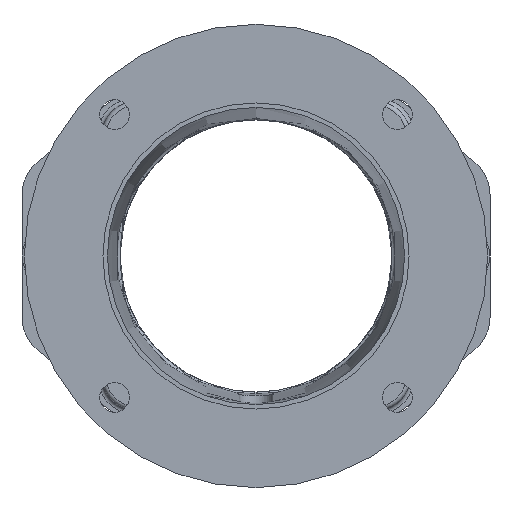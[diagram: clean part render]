
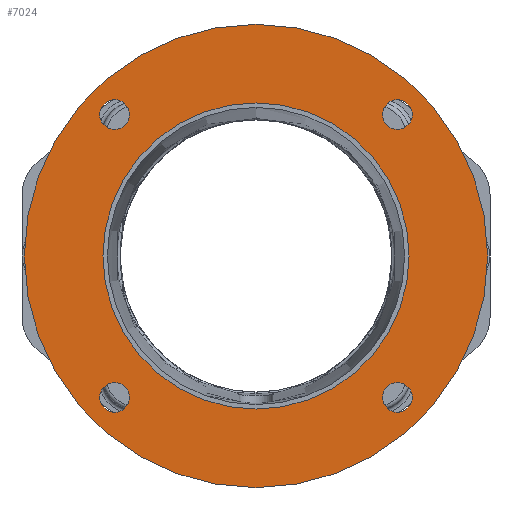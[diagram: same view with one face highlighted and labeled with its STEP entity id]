
A CAD part, front view. The second image highlights one B-rep face of the part: STEP entity #7024.
In plain terms, the highlighted planar face has unit normal (0, -1, 0).
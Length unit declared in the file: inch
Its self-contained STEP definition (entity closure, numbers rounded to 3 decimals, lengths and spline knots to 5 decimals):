
#1470 = DIRECTION ( 'NONE',  ( 0., -1., 0. ) ) ;
#1492 = CIRCLE ( 'NONE', #1498, 0.21875 ) ;
#1493 = DIRECTION ( 'NONE',  ( 0., 0., -1. ) ) ;
#1494 = CARTESIAN_POINT ( 'NONE',  ( 2.07889, 0., -1.86014 ) ) ;
#1497 = CARTESIAN_POINT ( 'NONE',  ( 2.07889, 0., -2.07889 ) ) ;
#1498 = AXIS2_PLACEMENT_3D ( 'NONE', #1497, #1470, #1493 ) ;
#1509 = CARTESIAN_POINT ( 'NONE',  ( 2.07889, 0., -2.29764 ) ) ;
#4248 = CARTESIAN_POINT ( 'NONE',  ( 0., 0., 3.405 ) ) ;
#4250 = CARTESIAN_POINT ( 'NONE',  ( 2.07889, 0., 1.86014 ) ) ;
#4251 = DIRECTION ( 'NONE',  ( 0., 0., -1. ) ) ;
#4252 = DIRECTION ( 'NONE',  ( 0., -1., 0. ) ) ;
#4253 = CARTESIAN_POINT ( 'NONE',  ( 2.07889, 0., 2.07889 ) ) ;
#4259 = AXIS2_PLACEMENT_3D ( 'NONE', #4253, #4252, #4251 ) ;
#4260 = CIRCLE ( 'NONE', #4259, 0.21875 ) ;
#4261 = CARTESIAN_POINT ( 'NONE',  ( 2.07889, 0., 2.29764 ) ) ;
#4334 = CARTESIAN_POINT ( 'NONE',  ( -2.07889, 0., -2.07889 ) ) ;
#4337 = DIRECTION ( 'NONE',  ( 0., 0., -1. ) ) ;
#4338 = DIRECTION ( 'NONE',  ( 0., -1., 0. ) ) ;
#4339 = AXIS2_PLACEMENT_3D ( 'NONE', #4334, #4338, #4337 ) ;
#4340 = CIRCLE ( 'NONE', #4339, 0.21875 ) ;
#4350 = CIRCLE ( 'NONE', #4380, 0.21875 ) ;
#4351 = CARTESIAN_POINT ( 'NONE',  ( -2.07889, 0., 1.86014 ) ) ;
#4359 = CARTESIAN_POINT ( 'NONE',  ( -2.07889, 0., 2.29764 ) ) ;
#4360 = CARTESIAN_POINT ( 'NONE',  ( -2.07889, 0., -2.29764 ) ) ;
#4377 = DIRECTION ( 'NONE',  ( 0., 0., -1. ) ) ;
#4378 = DIRECTION ( 'NONE',  ( 0., -1., 0. ) ) ;
#4379 = CARTESIAN_POINT ( 'NONE',  ( -2.07889, 0., 2.07889 ) ) ;
#4380 = AXIS2_PLACEMENT_3D ( 'NONE', #4379, #4378, #4377 ) ;
#4465 = CARTESIAN_POINT ( 'NONE',  ( 0., 0., 2.2505 ) ) ;
#4474 = CARTESIAN_POINT ( 'NONE',  ( 0., 0., 0. ) ) ;
#4475 = DIRECTION ( 'NONE',  ( 0., 0., -1. ) ) ;
#4476 = AXIS2_PLACEMENT_3D ( 'NONE', #4474, #4490, #4475 ) ;
#4477 = CIRCLE ( 'NONE', #4476, 2.2505 ) ;
#4490 = DIRECTION ( 'NONE',  ( 0., -1., 0. ) ) ;
#4511 = CARTESIAN_POINT ( 'NONE',  ( 0., 0., -2.2505 ) ) ;
#4738 = CARTESIAN_POINT ( 'NONE',  ( 0., 0., -3.405 ) ) ;
#4739 = DIRECTION ( 'NONE',  ( 0., 0., -1. ) ) ;
#4740 = DIRECTION ( 'NONE',  ( 0., -1., 0. ) ) ;
#4741 = CARTESIAN_POINT ( 'NONE',  ( 0., 0., 0. ) ) ;
#4742 = AXIS2_PLACEMENT_3D ( 'NONE', #4741, #4740, #4739 ) ;
#4743 = CIRCLE ( 'NONE', #4742, 3.405 ) ;
#4802 = CARTESIAN_POINT ( 'NONE',  ( -2.07889, 0., -1.86014 ) ) ;
#5537 = DIRECTION ( 'NONE',  ( 0., 0., -1. ) ) ;
#5581 = DIRECTION ( 'NONE',  ( 0., 0., -1. ) ) ;
#5582 = DIRECTION ( 'NONE',  ( 0., -1., 0. ) ) ;
#5583 = CARTESIAN_POINT ( 'NONE',  ( -2.07889, 0., -2.07889 ) ) ;
#5584 = AXIS2_PLACEMENT_3D ( 'NONE', #5583, #5582, #5581 ) ;
#5622 = CIRCLE ( 'NONE', #5584, 0.21875 ) ;
#5657 = AXIS2_PLACEMENT_3D ( 'NONE', #5663, #5744, #5704 ) ;
#5658 = DIRECTION ( 'NONE',  ( 0., 0., -1. ) ) ;
#5659 = DIRECTION ( 'NONE',  ( 0., -1., 0. ) ) ;
#5660 = CARTESIAN_POINT ( 'NONE',  ( 2.07889, 0., -2.07889 ) ) ;
#5661 = AXIS2_PLACEMENT_3D ( 'NONE', #5660, #5659, #5658 ) ;
#5662 = CIRCLE ( 'NONE', #5661, 0.21875 ) ;
#5663 = CARTESIAN_POINT ( 'NONE',  ( 2.07889, 0., 2.07889 ) ) ;
#5680 = DIRECTION ( 'NONE',  ( 0., 0., -1. ) ) ;
#5681 = DIRECTION ( 'NONE',  ( 0., -1., 0. ) ) ;
#5682 = CARTESIAN_POINT ( 'NONE',  ( -2.07889, 0., 2.07889 ) ) ;
#5683 = AXIS2_PLACEMENT_3D ( 'NONE', #5682, #5681, #5680 ) ;
#5684 = CIRCLE ( 'NONE', #5683, 0.21875 ) ;
#5686 = CIRCLE ( 'NONE', #5657, 0.21875 ) ;
#5704 = DIRECTION ( 'NONE',  ( 0., 0., -1. ) ) ;
#5727 = DIRECTION ( 'NONE',  ( 0., -1., 0. ) ) ;
#5728 = CARTESIAN_POINT ( 'NONE',  ( 0., 0., 0. ) ) ;
#5729 = AXIS2_PLACEMENT_3D ( 'NONE', #5728, #5727, #5537 ) ;
#5730 = CIRCLE ( 'NONE', #5729, 3.405 ) ;
#5733 = DIRECTION ( 'NONE',  ( 0., 0., -1. ) ) ;
#5734 = DIRECTION ( 'NONE',  ( 0., -1., 0. ) ) ;
#5735 = CARTESIAN_POINT ( 'NONE',  ( 0., 0., 0. ) ) ;
#5736 = AXIS2_PLACEMENT_3D ( 'NONE', #5735, #5734, #5733 ) ;
#5737 = CIRCLE ( 'NONE', #5736, 2.2505 ) ;
#5744 = DIRECTION ( 'NONE',  ( 0., -1., 0. ) ) ;
#5762 = FACE_BOUND ( 'NONE', #6891, .T. ) ;
#5777 = FACE_BOUND ( 'NONE', #6936, .T. ) ;
#5778 = FACE_BOUND ( 'NONE', #6909, .T. ) ;
#5786 = DIRECTION ( 'NONE',  ( 0., 0., 1. ) ) ;
#5787 = PLANE ( 'NONE',  #5819 ) ;
#5794 = FACE_BOUND ( 'NONE', #6942, .T. ) ;
#5818 = DIRECTION ( 'NONE',  ( 0., 1., 0. ) ) ;
#5819 = AXIS2_PLACEMENT_3D ( 'NONE', #5835, #5818, #5786 ) ;
#5835 = CARTESIAN_POINT ( 'NONE',  ( -2.19153, 0., 0. ) ) ;
#5841 = FACE_OUTER_BOUND ( 'NONE', #7012, .T. ) ;
#5857 = FACE_BOUND ( 'NONE', #7000, .T. ) ;
#6238 = VERTEX_POINT ( 'NONE', #1494 ) ;
#6240 = EDGE_CURVE ( 'NONE', #6238, #6241, #1492, .T. ) ;
#6241 = VERTEX_POINT ( 'NONE', #1509 ) ;
#6457 = VERTEX_POINT ( 'NONE', #4248 ) ;
#6459 = VERTEX_POINT ( 'NONE', #4261 ) ;
#6461 = EDGE_CURVE ( 'NONE', #6459, #6462, #4260, .T. ) ;
#6462 = VERTEX_POINT ( 'NONE', #4250 ) ;
#6476 = VERTEX_POINT ( 'NONE', #4351 ) ;
#6478 = EDGE_CURVE ( 'NONE', #6484, #6476, #4350, .T. ) ;
#6482 = VERTEX_POINT ( 'NONE', #4360 ) ;
#6484 = VERTEX_POINT ( 'NONE', #4359 ) ;
#6486 = EDGE_CURVE ( 'NONE', #6643, #6482, #4340, .T. ) ;
#6544 = VERTEX_POINT ( 'NONE', #4465 ) ;
#6546 = EDGE_CURVE ( 'NONE', #6544, #6547, #4477, .T. ) ;
#6547 = VERTEX_POINT ( 'NONE', #4511 ) ;
#6606 = EDGE_CURVE ( 'NONE', #6607, #6457, #4743, .T. ) ;
#6607 = VERTEX_POINT ( 'NONE', #4738 ) ;
#6643 = VERTEX_POINT ( 'NONE', #4802 ) ;
#6891 = EDGE_LOOP ( 'NONE', ( #6892, #6908 ) ) ;
#6892 = ORIENTED_EDGE ( 'NONE', *, *, #6907, .F. ) ;
#6907 = EDGE_CURVE ( 'NONE', #6482, #6643, #5622, .T. ) ;
#6908 = ORIENTED_EDGE ( 'NONE', *, *, #6486, .F. ) ;
#6909 = EDGE_LOOP ( 'NONE', ( #6997, #6999 ) ) ;
#6936 = EDGE_LOOP ( 'NONE', ( #6969, #6971 ) ) ;
#6939 = ORIENTED_EDGE ( 'NONE', *, *, #6940, .F. ) ;
#6940 = EDGE_CURVE ( 'NONE', #6462, #6459, #5686, .T. ) ;
#6941 = ORIENTED_EDGE ( 'NONE', *, *, #6461, .F. ) ;
#6942 = EDGE_LOOP ( 'NONE', ( #6943, #7011 ) ) ;
#6943 = ORIENTED_EDGE ( 'NONE', *, *, #7010, .F. ) ;
#6969 = ORIENTED_EDGE ( 'NONE', *, *, #6970, .F. ) ;
#6970 = EDGE_CURVE ( 'NONE', #6241, #6238, #5662, .T. ) ;
#6971 = ORIENTED_EDGE ( 'NONE', *, *, #6240, .F. ) ;
#6997 = ORIENTED_EDGE ( 'NONE', *, *, #6998, .F. ) ;
#6998 = EDGE_CURVE ( 'NONE', #6476, #6484, #5684, .T. ) ;
#6999 = ORIENTED_EDGE ( 'NONE', *, *, #6478, .F. ) ;
#7000 = EDGE_LOOP ( 'NONE', ( #6939, #6941 ) ) ;
#7010 = EDGE_CURVE ( 'NONE', #6547, #6544, #5737, .T. ) ;
#7011 = ORIENTED_EDGE ( 'NONE', *, *, #6546, .F. ) ;
#7012 = EDGE_LOOP ( 'NONE', ( #7013, #7014 ) ) ;
#7013 = ORIENTED_EDGE ( 'NONE', *, *, #6606, .T. ) ;
#7014 = ORIENTED_EDGE ( 'NONE', *, *, #7023, .T. ) ;
#7023 = EDGE_CURVE ( 'NONE', #6457, #6607, #5730, .T. ) ;
#7024 = ADVANCED_FACE ( 'NONE', ( #5777, #5762, #5778, #5857, #5794, #5841 ), #5787, .F. ) ;
